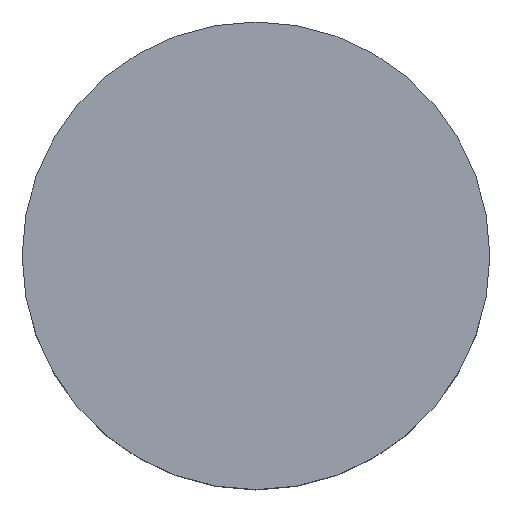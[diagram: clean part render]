
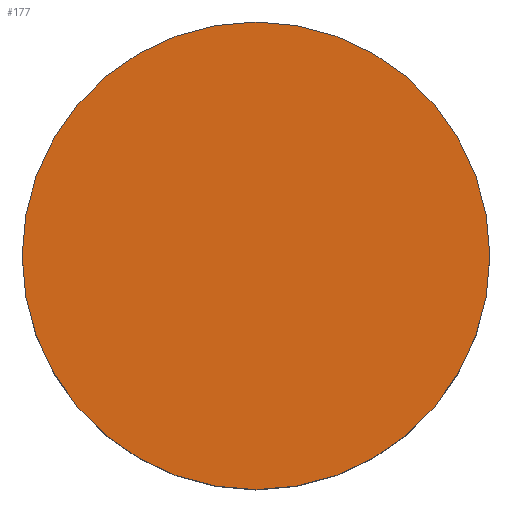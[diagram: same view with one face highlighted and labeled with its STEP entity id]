
A CAD part, top view. The second image highlights one B-rep face of the part: STEP entity #177.
In plain terms, the highlighted planar face has unit normal (0, 0, 1).
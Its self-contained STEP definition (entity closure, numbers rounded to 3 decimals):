
#12 = VERTEX_POINT ( 'NONE', #85 ) ;
#16 = ORIENTED_EDGE ( 'NONE', *, *, #131, .T. ) ;
#25 = CARTESIAN_POINT ( 'NONE',  ( 0., 0., 10. ) ) ;
#27 = CARTESIAN_POINT ( 'NONE',  ( 0., 0., 10. ) ) ;
#59 = EDGE_CURVE ( 'NONE', #63, #12, #87, .T. ) ;
#63 = VERTEX_POINT ( 'NONE', #226 ) ;
#66 = DIRECTION ( 'NONE',  ( 1., 0., 0. ) ) ;
#70 = DIRECTION ( 'NONE',  ( 0., 0., 1. ) ) ;
#76 = DIRECTION ( 'NONE',  ( -1., 0., 0. ) ) ;
#85 = CARTESIAN_POINT ( 'NONE',  ( 12.5, 0., 10. ) ) ;
#87 = CIRCLE ( 'NONE', #171, 12.5 ) ;
#98 = AXIS2_PLACEMENT_3D ( 'NONE', #27, #70, #107 ) ;
#107 = DIRECTION ( 'NONE',  ( 1., 0., 0. ) ) ;
#118 = DIRECTION ( 'NONE',  ( 0., 0., -1. ) ) ;
#131 = EDGE_CURVE ( 'NONE', #12, #63, #185, .T. ) ;
#153 = ORIENTED_EDGE ( 'NONE', *, *, #59, .T. ) ;
#161 = PLANE ( 'NONE',  #211 ) ;
#171 = AXIS2_PLACEMENT_3D ( 'NONE', #25, #247, #66 ) ;
#177 = ADVANCED_FACE ( 'NONE', ( #181 ), #161, .F. ) ;
#181 = FACE_OUTER_BOUND ( 'NONE', #227, .T. ) ;
#183 = CARTESIAN_POINT ( 'NONE',  ( 12.5, 0., 10. ) ) ;
#185 = CIRCLE ( 'NONE', #98, 12.5 ) ;
#211 = AXIS2_PLACEMENT_3D ( 'NONE', #183, #118, #76 ) ;
#226 = CARTESIAN_POINT ( 'NONE',  ( -12.5, 0., 10. ) ) ;
#227 = EDGE_LOOP ( 'NONE', ( #16, #153 ) ) ;
#247 = DIRECTION ( 'NONE',  ( 0., 0., 1. ) ) ;
